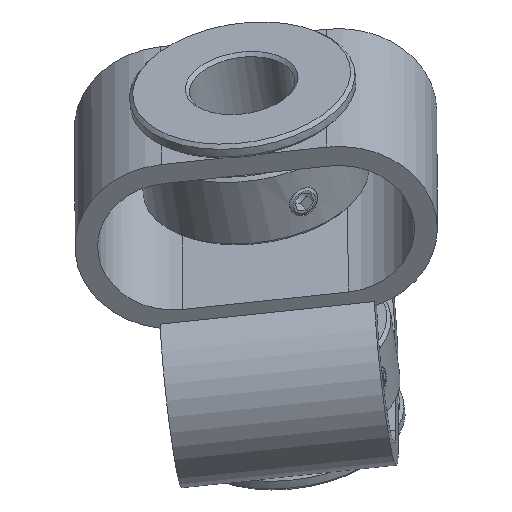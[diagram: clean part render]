
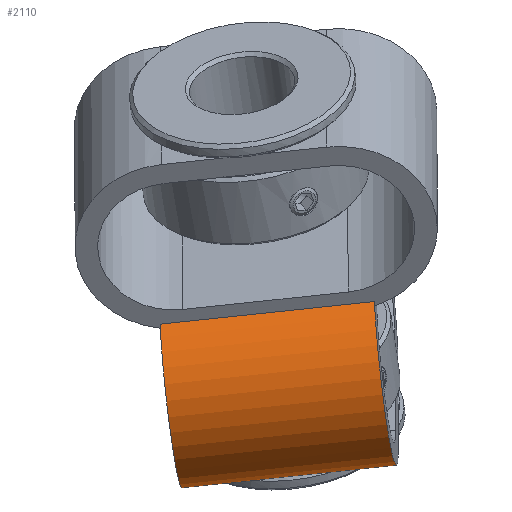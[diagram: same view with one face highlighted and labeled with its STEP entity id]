
A CAD part, isometric view. The second image highlights one B-rep face of the part: STEP entity #2110.
In plain terms, the highlighted cylindrical face has radius 13 mm (diameter 26 mm), a partial arc.
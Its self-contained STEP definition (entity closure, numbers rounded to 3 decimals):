
#33=B_SPLINE_CURVE_WITH_KNOTS('',3,(#3773,#3774,#3775,#3776,#3777,#3778,
#3779,#3780,#3781,#3782),.UNSPECIFIED.,.F.,.F.,(4,2,2,2,4),(2.807,
2.894,3.138,3.382,3.469),
 .UNSPECIFIED.);
#63=CYLINDRICAL_SURFACE('',#2331,13.);
#177=LINE('',#3629,#309);
#181=LINE('',#3769,#313);
#182=LINE('',#3771,#314);
#183=LINE('',#3784,#315);
#184=LINE('',#3786,#316);
#309=VECTOR('',#2791,28.5);
#313=VECTOR('',#2883,4.803);
#314=VECTOR('',#2884,6.093);
#315=VECTOR('',#2885,6.093);
#316=VECTOR('',#2886,4.803);
#598=FACE_OUTER_BOUND('',#782,.T.);
#782=EDGE_LOOP('',(#1807,#1808,#1809,#1810,#1811,#1812,#1813,#1814));
#920=CIRCLE('',#2332,13.);
#921=CIRCLE('',#2333,13.);
#1067=VERTEX_POINT('',#3622);
#1069=VERTEX_POINT('',#3627);
#1086=VERTEX_POINT('',#3766);
#1087=VERTEX_POINT('',#3768);
#1088=VERTEX_POINT('',#3770);
#1089=VERTEX_POINT('',#3772);
#1090=VERTEX_POINT('',#3783);
#1091=VERTEX_POINT('',#3785);
#1312=EDGE_CURVE('',#1067,#1069,#177,.T.);
#1340=EDGE_CURVE('',#1069,#1086,#920,.T.);
#1341=EDGE_CURVE('',#1086,#1087,#181,.T.);
#1342=EDGE_CURVE('',#1088,#1087,#182,.T.);
#1343=EDGE_CURVE('',#1088,#1089,#33,.T.);
#1344=EDGE_CURVE('',#1090,#1089,#183,.T.);
#1345=EDGE_CURVE('',#1090,#1091,#184,.T.);
#1346=EDGE_CURVE('',#1091,#1067,#921,.T.);
#1807=ORIENTED_EDGE('',*,*,#1312,.T.);
#1808=ORIENTED_EDGE('',*,*,#1340,.T.);
#1809=ORIENTED_EDGE('',*,*,#1341,.T.);
#1810=ORIENTED_EDGE('',*,*,#1342,.F.);
#1811=ORIENTED_EDGE('',*,*,#1343,.T.);
#1812=ORIENTED_EDGE('',*,*,#1344,.F.);
#1813=ORIENTED_EDGE('',*,*,#1345,.T.);
#1814=ORIENTED_EDGE('',*,*,#1346,.T.);
#2110=ADVANCED_FACE('',(#598),#63,.T.);
#2331=AXIS2_PLACEMENT_3D('',#3765,#2879,#2880);
#2332=AXIS2_PLACEMENT_3D('',#3767,#2881,#2882);
#2333=AXIS2_PLACEMENT_3D('',#3787,#2887,#2888);
#2791=DIRECTION('',(-0.707,0.697,-0.123));
#2879=DIRECTION('center_axis',(-0.707,0.697,-0.123));
#2880=DIRECTION('ref_axis',(-0.541,-0.421,0.728));
#2881=DIRECTION('center_axis',(0.707,-0.697,0.123));
#2882=DIRECTION('ref_axis',(-0.455,-0.581,-0.674));
#2883=DIRECTION('',(0.707,-0.697,0.123));
#2884=DIRECTION('',(-0.707,0.697,-0.123));
#2885=DIRECTION('',(-0.707,0.697,-0.123));
#2886=DIRECTION('',(0.707,-0.697,0.123));
#2887=DIRECTION('center_axis',(-0.707,0.697,-0.123));
#2888=DIRECTION('ref_axis',(-0.541,-0.421,0.728));
#3622=CARTESIAN_POINT('',(-110.57,28.145,-29.469));
#3627=CARTESIAN_POINT('',(-130.717,47.996,-32.972));
#3629=CARTESIAN_POINT('',(-115.607,33.108,-30.345));
#3765=CARTESIAN_POINT('Origin',(-112.555,33.981,-42.951));
#3766=CARTESIAN_POINT('',(-126.878,47.393,-58.471));
#3767=CARTESIAN_POINT('Origin',(-127.665,48.869,-45.579));
#3768=CARTESIAN_POINT('',(-123.483,44.047,-57.88));
#3769=CARTESIAN_POINT('',(-111.768,32.504,-55.843));
#3770=CARTESIAN_POINT('',(-119.176,39.803,-57.131));
#3771=CARTESIAN_POINT('',(-111.768,32.504,-55.843));
#3772=CARTESIAN_POINT('',(-114.433,35.131,-56.306));
#3773=CARTESIAN_POINT('Ctrl Pts',(-119.176,39.803,-57.131));
#3774=CARTESIAN_POINT('Ctrl Pts',(-119.032,39.538,-57.092));
#3775=CARTESIAN_POINT('Ctrl Pts',(-118.879,39.279,-57.052));
#3776=CARTESIAN_POINT('Ctrl Pts',(-118.261,38.325,-56.901));
#3777=CARTESIAN_POINT('Ctrl Pts',(-117.732,37.68,-56.79));
#3778=CARTESIAN_POINT('Ctrl Pts',(-116.583,36.548,-56.59));
#3779=CARTESIAN_POINT('Ctrl Pts',(-115.929,36.027,-56.495));
#3780=CARTESIAN_POINT('Ctrl Pts',(-114.963,35.421,-56.371));
#3781=CARTESIAN_POINT('Ctrl Pts',(-114.701,35.271,-56.339));
#3782=CARTESIAN_POINT('Ctrl Pts',(-114.433,35.131,-56.306));
#3783=CARTESIAN_POINT('',(-110.126,30.887,-55.557));
#3784=CARTESIAN_POINT('',(-111.768,32.504,-55.843));
#3785=CARTESIAN_POINT('',(-106.731,27.542,-54.967));
#3786=CARTESIAN_POINT('',(-111.768,32.504,-55.843));
#3787=CARTESIAN_POINT('Origin',(-107.518,29.018,-42.075));
